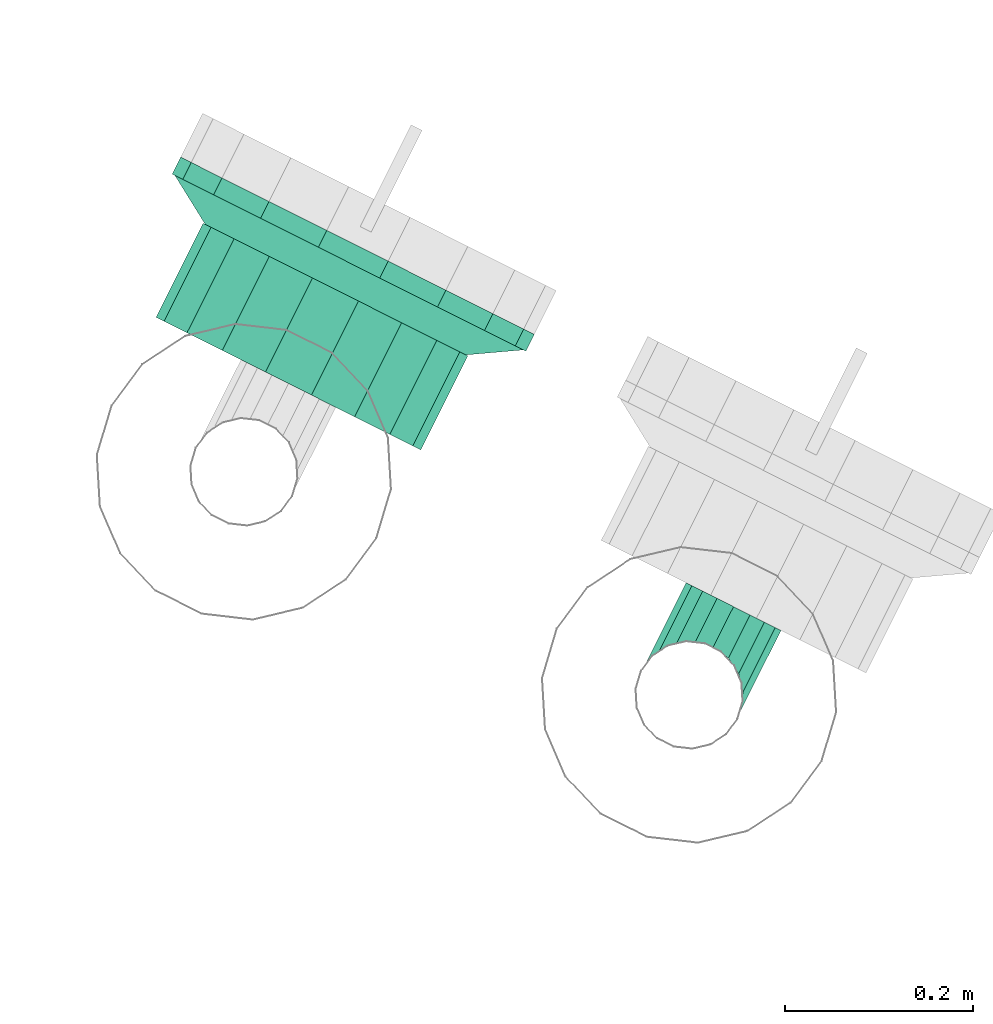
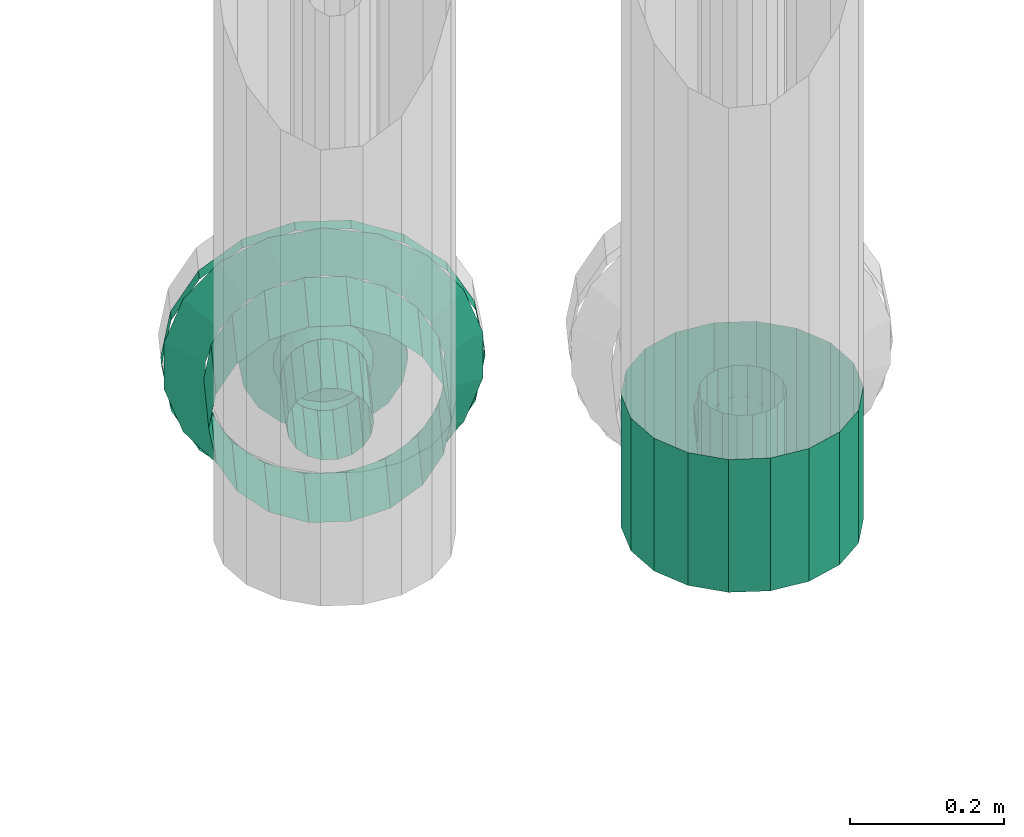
# One storey, part 39 of 206: 2 flow fittings, 1 flow segment.
"""IFC2X3 building model written with IfcOpenShell, lengths in metres."""

from ifc_helpers import new_model, si_unit, derived_unit, direction, frame, origin, place, context, subcontext, project, spatial, face_set, surface_model, source, transform, mapped, material, type_object, type_shapes, element, save


model = new_model("IFC2X3")

# Units and contexts
model_context = context("Model", 3, precision=5.2338327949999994e-05, world=origin(), true_north=direction((0.0, 1.0)))
body_context = subcontext(model_context, "Body", "Model", "MODEL_VIEW")
ifc_project = project(units=[si_unit("LENGTHUNIT", "METRE"), si_unit("AREAUNIT", "SQUARE_METRE"), si_unit("VOLUMEUNIT", "CUBIC_METRE"), si_unit("MASSUNIT", "GRAM", prefix="KILO"), si_unit("PLANEANGLEUNIT", "RADIAN"), derived_unit("THERMALTRANSMITTANCEUNIT", [(si_unit("MASSUNIT", "GRAM", prefix="KILO"), 1), (si_unit("THERMODYNAMICTEMPERATUREUNIT", "KELVIN"), -1), (si_unit("TIMEUNIT", "SECOND"), -3)])], contexts=[model_context])

# Site, building, storey
site_placement = place(None, frame((0.0, 0.0, 0.0), z_axis=(0.0, 0.0, 1.0), x_axis=(0.8939966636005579, -0.4480736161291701, 0.0)))
site = spatial("IfcSite", under=ifc_project, at=site_placement, Name="Default", CompositionType="ELEMENT")
building_placement = place(site_placement, origin())
building = spatial("IfcBuilding", under=site, at=building_placement, CompositionType="ELEMENT")
storey_placement = place(building_placement, origin())
storey = spatial("IfcBuildingStorey", under=building, at=storey_placement, Name="Erdgeschoss", CompositionType="ELEMENT", Elevation=0.0)

# Flow fitting
ifc_material_1 = material(Name="IfcSurfaceStyle #1741")
distribution_element_type_1 = type_object("IfcDistributionElementType", Name="Abzweigstück 327505:Abzweigstück 327505", material=ifc_material_1)
shared_shape_1 = source(origin(), body_context, "Body", "SurfaceModel", [
    surface_model("IfcFaceBasedSurfaceModel", [(25.567149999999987, 0.6122997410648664, 0.9494106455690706), (25.57059656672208, 0.592753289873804, 0.9494106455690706), (25.57059656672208, 0.592753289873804, 1.1594106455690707), (25.567149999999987, 0.6122997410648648, 1.1594106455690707), (25.580520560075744, 0.5755644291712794, 0.9494106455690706), (25.580520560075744, 0.5755644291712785, 1.1594106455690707), (25.595724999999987, 0.5628063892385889, 0.9494106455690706), (25.595724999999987, 0.5628063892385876, 1.1594106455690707), (25.61437600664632, 0.5560179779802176, 0.9494106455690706), (25.614376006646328, 0.5560179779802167, 1.1594106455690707), (25.634223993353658, 0.5560179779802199, 0.9494106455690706), (25.634223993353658, 0.5560179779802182, 1.1594106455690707), (25.652874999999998, 0.562806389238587, 0.9494106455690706), (25.65287499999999, 0.5628063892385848, 1.1594106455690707), (25.66807943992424, 0.5755644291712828, 0.9494106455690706), (25.668079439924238, 0.5755644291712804, 1.1594106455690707), (25.678003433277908, 0.5927532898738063, 0.9494106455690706), (25.678003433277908, 0.5927532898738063, 1.1594106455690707), (25.68144999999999, 0.612299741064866, 0.9494106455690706), (25.68144999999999, 0.6122997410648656, 1.1594106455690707), (25.678003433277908, 0.6318461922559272, 0.9494106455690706), (25.678003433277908, 0.631846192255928, 1.1594106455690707), (25.668079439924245, 0.6490350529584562, 0.9494106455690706), (25.668079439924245, 0.6490350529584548, 1.1594106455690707), (25.652874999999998, 0.6617930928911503, 0.9494106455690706), (25.65287499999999, 0.6617930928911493, 1.1594106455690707), (25.634223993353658, 0.6685815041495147, 0.9494106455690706), (25.63422399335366, 0.6685815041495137, 1.1594106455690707), (25.614376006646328, 0.6685815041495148, 0.9494106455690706), (25.61437600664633, 0.6685815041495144, 1.1594106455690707), (25.595724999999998, 0.6617930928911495, 0.9494106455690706), (25.595724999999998, 0.6617930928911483, 1.1594106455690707), (25.580520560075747, 0.6490350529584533, 0.9494106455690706), (25.580520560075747, 0.6490350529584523, 1.1594106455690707), (25.57059656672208, 0.6318461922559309, 0.9494106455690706), (25.57059656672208, 0.6318461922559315, 1.1594106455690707), (25.624299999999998, 0.6694497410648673, 1.1115606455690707), (25.643846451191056, 0.6660031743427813, 1.1081140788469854), (25.643846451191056, 0.717299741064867, 1.1081140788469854), (25.624299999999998, 0.7172997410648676, 1.1115606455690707), (25.66103531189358, 0.6560791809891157, 1.0981900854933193), (25.661035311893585, 0.7172997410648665, 1.098190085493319), (25.673793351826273, 0.6408747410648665, 1.0829856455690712), (25.673793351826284, 0.717299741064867, 1.0829856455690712), (25.68058176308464, 0.6222237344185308, 1.0643346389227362), (25.680581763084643, 0.7172997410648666, 1.064334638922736), (25.680581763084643, 0.6222237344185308, 1.0444866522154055), (25.680581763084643, 0.7172997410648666, 1.0444866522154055), (25.67379335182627, 0.6408747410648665, 1.0258356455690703), (25.673793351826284, 0.717299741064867, 1.0258356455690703), (25.66103531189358, 0.6560791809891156, 1.0106312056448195), (25.661035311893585, 0.7172997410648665, 1.0106312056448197), (25.643846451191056, 0.6660031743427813, 1.0007072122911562), (25.643846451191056, 0.717299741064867, 1.0007072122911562), (25.624299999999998, 0.6694497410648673, 0.9972606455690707), (25.624299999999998, 0.7172997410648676, 0.9972606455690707), (25.604753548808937, 0.6660031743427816, 1.0007072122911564), (25.60475354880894, 0.7172997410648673, 1.0007072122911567), (25.58756468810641, 0.6560791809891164, 1.010631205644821), (25.58756468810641, 0.7172997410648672, 1.010631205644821), (25.57480664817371, 0.6408747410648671, 1.025835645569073), (25.574806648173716, 0.7172997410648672, 1.025835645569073), (25.56801823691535, 0.6222237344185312, 1.0444866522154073), (25.568018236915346, 0.717299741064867, 1.0444866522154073), (25.568018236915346, 0.6222237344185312, 1.0643346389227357), (25.568018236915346, 0.717299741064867, 1.0643346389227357), (25.57480664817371, 0.6408747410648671, 1.0829856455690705), (25.574806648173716, 0.7172997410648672, 1.0829856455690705), (25.58756468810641, 0.6560791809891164, 1.0981900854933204), (25.58756468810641, 0.7172997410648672, 1.0981900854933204), (25.604753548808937, 0.6660031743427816, 1.1081140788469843), (25.60475354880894, 0.7172997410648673, 1.1081140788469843), (25.467149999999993, 0.6122997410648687, 0.9494106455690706), (25.476627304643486, 0.55855127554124, 0.9494106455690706), (25.476627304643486, 0.5585512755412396, 1.1594106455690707), (25.467149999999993, 0.6122997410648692, 1.1594106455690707), (25.503916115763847, 0.5112856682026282, 0.9494106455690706), (25.503916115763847, 0.5112856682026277, 1.1594106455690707), (25.545724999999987, 0.47620384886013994, 0.9494106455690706), (25.545724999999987, 0.4762038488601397, 1.1594106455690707), (25.59701118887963, 0.4575372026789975, 0.9494106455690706), (25.59701118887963, 0.45753720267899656, 1.1594106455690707), (25.651588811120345, 0.45753720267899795, 0.9494106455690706), (25.651588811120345, 0.4575372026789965, 1.1594106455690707), (25.702874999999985, 0.4762038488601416, 0.9494106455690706), (25.702874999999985, 0.4762038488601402, 1.1594106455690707), (25.74468388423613, 0.5112856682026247, 0.9494106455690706), (25.74468388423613, 0.5112856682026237, 1.1594106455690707), (25.771972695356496, 0.558551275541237, 0.9494106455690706), (25.771972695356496, 0.5585512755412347, 1.1594106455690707), (25.781449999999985, 0.6122997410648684, 0.9494106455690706), (25.781449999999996, 0.6122997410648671, 1.1594106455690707), (25.7719726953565, 0.6660482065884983, 0.9494106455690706), (25.771972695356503, 0.6660482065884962, 1.1594106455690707), (25.744683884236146, 0.71331381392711, 0.9494106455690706), (25.744683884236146, 0.7133138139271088, 1.1594106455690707), (25.702875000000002, 0.7483956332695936, 0.9494106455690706), (25.702875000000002, 0.7483956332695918, 1.1594106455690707), (25.651588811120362, 0.7670622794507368, 0.9494106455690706), (25.651588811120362, 0.7670622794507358, 1.1594106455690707), (25.597011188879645, 0.7670622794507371, 0.9494106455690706), (25.597011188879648, 0.7670622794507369, 1.1594106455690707), (25.545725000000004, 0.748395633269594, 0.9494106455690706), (25.545725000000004, 0.748395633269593, 1.1594106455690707), (25.50391611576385, 0.7133138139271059, 0.9494106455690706), (25.503916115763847, 0.7133138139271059, 1.1594106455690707), (25.47662730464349, 0.6660482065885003, 0.9494106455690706), (25.47662730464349, 0.6660482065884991, 1.1594106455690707)], [face_set([[[0, 1, 2, 3]], [[1, 4, 5, 2]], [[4, 6, 7, 5]], [[6, 8, 9, 7]], [[8, 10, 11, 9]], [[10, 12, 13, 11]], [[12, 14, 15, 13]], [[14, 16, 17, 15]], [[16, 18, 19, 17]], [[18, 20, 21, 19]], [[20, 22, 23, 21]], [[22, 24, 25, 23]], [[24, 26, 27, 25]], [[26, 28, 29, 27]], [[28, 30, 31, 29]], [[30, 32, 33, 31]], [[32, 34, 35, 33]], [[34, 0, 3, 35]], [[36, 37, 38, 39]], [[37, 40, 41, 38]], [[40, 42, 43, 41]], [[42, 44, 45, 43]], [[44, 46, 47, 45]], [[46, 48, 49, 47]], [[48, 50, 51, 49]], [[50, 52, 53, 51]], [[52, 54, 55, 53]], [[54, 56, 57, 55]], [[56, 58, 59, 57]], [[58, 60, 61, 59]], [[60, 62, 63, 61]], [[62, 64, 65, 63]], [[64, 66, 67, 65]], [[66, 68, 69, 67]], [[68, 70, 71, 69]], [[70, 36, 39, 71]], [[72, 73, 74, 75]], [[73, 76, 77, 74]], [[76, 78, 79, 77]], [[78, 80, 81, 79]], [[80, 82, 83, 81]], [[82, 84, 85, 83]], [[84, 86, 87, 85]], [[86, 88, 89, 87]], [[88, 90, 91, 89]], [[90, 92, 93, 91]], [[92, 94, 95, 93]], [[94, 96, 97, 95]], [[96, 98, 99, 97]], [[98, 100, 101, 99]], [[100, 102, 103, 101]], [[102, 104, 105, 103]], [[104, 106, 107, 105]], [[106, 72, 75, 107]]])]),
])
type_shapes(distribution_element_type_1, [shared_shape_1])
flow_fitting_1_placement = place(storey_placement, origin())
element("IfcFlowFitting", 1, at=flow_fitting_1_placement, inside=storey, type_object=distribution_element_type_1, material=ifc_material_1, Name="Abzweigstück", ObjectType="Abzweigstück", context=body_context, shape_type="MappedRepresentation", body=[
    mapped(shared_shape_1, transform((0.0, 0.0, 0.0), scale=1.0)),
])

# Flow segment
ifc_material_2 = material(Name="IfcSurfaceStyle #9317")
distribution_element_type_2 = type_object("IfcDistributionElementType", Name="Stahlrohr nach DIN 2448 351427:Stahlrohr nach DIN 2448 351427", material=ifc_material_2)
shared_shape_2 = source(origin(), body_context, "Body", "SurfaceModel", [
    surface_model("IfcFaceBasedSurfaceModel", [(25.038549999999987, 0.7172997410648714, 1.0544106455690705), (25.041996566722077, 0.7172997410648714, 1.0739570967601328), (25.041996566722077, 0.8288727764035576, 1.0739570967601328), (25.038549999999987, 0.8288727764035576, 1.0544106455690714), (25.051920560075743, 0.7172997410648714, 1.0911459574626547), (25.051920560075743, 0.8288727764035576, 1.0911459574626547), (25.067124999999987, 0.7172997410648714, 1.1039039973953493), (25.067124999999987, 0.8288727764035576, 1.1039039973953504), (25.08577600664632, 0.7172997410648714, 1.1106924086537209), (25.08577600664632, 0.8288727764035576, 1.1106924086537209), (25.105623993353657, 0.7172997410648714, 1.1106924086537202), (25.105623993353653, 0.8288727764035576, 1.1106924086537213), (25.12427499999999, 0.7172997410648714, 1.1039039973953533), (25.124274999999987, 0.8288727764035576, 1.1039039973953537), (25.139479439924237, 0.7172997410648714, 1.0911459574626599), (25.139479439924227, 0.8288727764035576, 1.0911459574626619), (25.149403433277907, 0.7172997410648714, 1.0739570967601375), (25.149403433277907, 0.8288727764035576, 1.0739570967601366), (25.152849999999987, 0.7172997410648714, 1.054410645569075), (25.152849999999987, 0.8288727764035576, 1.054410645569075), (25.1494034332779, 0.7172997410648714, 1.0348641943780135), (25.149403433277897, 0.8288727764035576, 1.0348641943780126), (25.139479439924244, 0.7172997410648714, 1.0176753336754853), (25.139479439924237, 0.8288727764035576, 1.0176753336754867), (25.12427499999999, 0.7172997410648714, 1.004917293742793), (25.124274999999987, 0.8288727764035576, 1.0049172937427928), (25.105623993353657, 0.7172997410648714, 0.9981288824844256), (25.105623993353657, 0.8288727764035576, 0.9981288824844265), (25.08577600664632, 0.7172997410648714, 0.9981288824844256), (25.085776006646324, 0.8288727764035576, 0.9981288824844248), (25.06712499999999, 0.7172997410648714, 1.004917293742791), (25.06712499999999, 0.8288727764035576, 1.004917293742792), (25.051920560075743, 0.7172997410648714, 1.0176753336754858), (25.051920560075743, 0.8288727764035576, 1.0176753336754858), (25.041996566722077, 0.7172997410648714, 1.0348641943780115), (25.041996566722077, 0.8288727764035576, 1.0348641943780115), (24.93854999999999, 0.7172997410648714, 1.054410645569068), (24.94802730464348, 0.7172997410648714, 1.1081591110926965), (24.94802730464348, 0.8288727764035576, 1.1081591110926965), (24.93854999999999, 0.8288727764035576, 1.054410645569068), (24.975316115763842, 0.7172997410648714, 1.1554247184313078), (24.97531611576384, 0.8288727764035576, 1.1554247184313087), (25.017124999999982, 0.7172997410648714, 1.190506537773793), (25.017124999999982, 0.8288727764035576, 1.190506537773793), (25.06841118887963, 0.7172997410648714, 1.20917318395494), (25.06841118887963, 0.8288727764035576, 1.20917318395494), (25.122988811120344, 0.7172997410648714, 1.2091731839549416), (25.122988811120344, 0.8288727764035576, 1.2091731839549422), (25.174274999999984, 0.7172997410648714, 1.1905065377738), (25.174274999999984, 0.8288727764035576, 1.1905065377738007), (25.21608388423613, 0.7172997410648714, 1.1554247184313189), (25.21608388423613, 0.8288727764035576, 1.1554247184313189), (25.243372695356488, 0.7172997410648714, 1.1081591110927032), (25.243372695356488, 0.8288727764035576, 1.1081591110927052), (25.25284999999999, 0.7172997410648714, 1.054410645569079), (25.25284999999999, 0.8288727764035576, 1.0544106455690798), (25.243372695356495, 0.7172997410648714, 1.0006621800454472), (25.243372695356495, 0.8288727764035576, 1.000662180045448), (25.216083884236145, 0.7172997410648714, 0.953396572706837), (25.216083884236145, 0.8288727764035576, 0.9533965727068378), (25.174274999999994, 0.7172997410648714, 0.9183147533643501), (25.174274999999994, 0.8288727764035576, 0.9183147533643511), (25.122988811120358, 0.7172997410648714, 0.8996481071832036), (25.12298881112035, 0.8288727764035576, 0.8996481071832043), (25.068411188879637, 0.7172997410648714, 0.8996481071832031), (25.068411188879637, 0.8288727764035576, 0.8996481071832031), (25.017124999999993, 0.7172997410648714, 0.9183147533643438), (25.017124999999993, 0.8288727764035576, 0.9183147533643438), (24.97531611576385, 0.7172997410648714, 0.9533965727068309), (24.975316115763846, 0.8288727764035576, 0.9533965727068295), (24.94802730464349, 0.7172997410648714, 1.0006621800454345), (24.94802730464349, 0.8288727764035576, 1.0006621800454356)], [face_set([[[0, 1, 2, 3]], [[1, 4, 5, 2]], [[4, 6, 7, 5]], [[6, 8, 9, 7]], [[8, 10, 11, 9]], [[10, 12, 13, 11]], [[12, 14, 15, 13]], [[14, 16, 17, 15]], [[16, 18, 19, 17]], [[18, 20, 21, 19]], [[20, 22, 23, 21]], [[22, 24, 25, 23]], [[24, 26, 27, 25]], [[26, 28, 29, 27]], [[28, 30, 31, 29]], [[30, 32, 33, 31]], [[32, 34, 35, 33]], [[34, 0, 3, 35]], [[36, 37, 38, 39]], [[37, 40, 41, 38]], [[40, 42, 43, 41]], [[42, 44, 45, 43]], [[44, 46, 47, 45]], [[46, 48, 49, 47]], [[48, 50, 51, 49]], [[50, 52, 53, 51]], [[52, 54, 55, 53]], [[54, 56, 57, 55]], [[56, 58, 59, 57]], [[58, 60, 61, 59]], [[60, 62, 63, 61]], [[62, 64, 65, 63]], [[64, 66, 67, 65]], [[66, 68, 69, 67]], [[68, 70, 71, 69]], [[70, 36, 39, 71]]])]),
])
type_shapes(distribution_element_type_2, [shared_shape_2])
flow_segment_placement = place(storey_placement, origin())
element("IfcFlowSegment", 2, at=flow_segment_placement, inside=storey, type_object=distribution_element_type_2, material=ifc_material_2, Name="Stahlrohr nach DIN 2448", ObjectType="Stahlrohr nach DIN 2448", context=body_context, shape_type="MappedRepresentation", body=[
    mapped(shared_shape_2, transform((0.0, 0.0, 0.0), scale=1.0)),
])

# Flow fitting
distribution_element_type_3 = type_object("IfcDistributionElementType", Name="Flansch 351708:Flansch 351708", material=ifc_material_2)
shared_shape_3 = source(origin(), body_context, "Body", "SurfaceModel", [
    surface_model("IfcFaceBasedSurfaceModel", [(25.095699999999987, 0.8288727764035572, 1.1115606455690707), (25.11524645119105, 0.8288727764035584, 1.108114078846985), (25.11810231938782, 0.8608727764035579, 1.1159605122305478), (25.095699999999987, 0.8608727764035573, 1.119910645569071), (25.13243531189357, 0.8288727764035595, 1.0981900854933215), (25.137802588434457, 0.8608727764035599, 1.1045865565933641), (25.14519335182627, 0.8288727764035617, 1.082985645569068), (25.15242466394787, 0.8608727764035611, 1.0871606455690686), (25.151981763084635, 0.8288727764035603, 1.0643346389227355), (25.160204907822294, 0.8608727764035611, 1.0657846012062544), (25.151981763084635, 0.8288727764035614, 1.044486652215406), (25.160204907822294, 0.8608727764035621, 1.0430366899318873), (25.14519335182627, 0.8288727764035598, 1.0258356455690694), (25.152424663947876, 0.8608727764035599, 1.02166064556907), (25.132435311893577, 0.8288727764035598, 1.0106312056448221), (25.13780258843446, 0.8608727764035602, 1.0042347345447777), (25.11524645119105, 0.8288727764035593, 1.0007072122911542), (25.11810231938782, 0.8608727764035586, 0.9928607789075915), (25.095699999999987, 0.8288727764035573, 0.997260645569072), (25.095699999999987, 0.8608727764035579, 0.9889106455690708), (25.076153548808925, 0.8288727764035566, 1.000707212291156), (25.07329768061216, 0.8608727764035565, 0.9928607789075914), (25.058964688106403, 0.8288727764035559, 1.010631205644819), (25.053597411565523, 0.8608727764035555, 1.0042347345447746), (25.04620664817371, 0.8288727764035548, 1.0258356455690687), (25.038975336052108, 0.8608727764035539, 1.0216606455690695), (25.039418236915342, 0.8288727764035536, 1.0444866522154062), (25.031195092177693, 0.8608727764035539, 1.043036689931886), (25.039418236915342, 0.828872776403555, 1.0643346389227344), (25.03119509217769, 0.8608727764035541, 1.065784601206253), (25.046206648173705, 0.8288727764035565, 1.082985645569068), (25.038975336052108, 0.8608727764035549, 1.0871606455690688), (25.058964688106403, 0.8288727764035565, 1.0981900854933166), (25.053597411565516, 0.8608727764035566, 1.1045865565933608), (25.076153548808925, 0.8288727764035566, 1.1081140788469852), (25.073297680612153, 0.8608727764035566, 1.1159605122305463), (24.98569999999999, 0.8608727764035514, 1.0544106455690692), (24.99233381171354, 0.8608727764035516, 1.0920328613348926), (24.99233381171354, 0.8808727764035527, 1.0920328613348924), (24.98569999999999, 0.8808727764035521, 1.0544106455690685), (25.011435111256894, 0.8608727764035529, 1.12511728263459), (25.011435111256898, 0.8808727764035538, 1.12511728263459), (25.04069999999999, 0.8608727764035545, 1.1496734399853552), (25.040699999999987, 0.8808727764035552, 1.1496734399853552), (25.076598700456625, 0.8608727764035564, 1.1627394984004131), (25.076598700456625, 0.8808727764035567, 1.162739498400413), (25.114801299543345, 0.8608727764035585, 1.162739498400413), (25.114801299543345, 0.8808727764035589, 1.162739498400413), (25.150699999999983, 0.8608727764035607, 1.1496734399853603), (25.150699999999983, 0.8808727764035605, 1.1496734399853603), (25.179964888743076, 0.8608727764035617, 1.1251172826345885), (25.179964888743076, 0.8808727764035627, 1.1251172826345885), (25.199066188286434, 0.8608727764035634, 1.0920328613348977), (25.199066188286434, 0.8808727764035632, 1.0920328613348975), (25.205699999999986, 0.8608727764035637, 1.0544106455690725), (25.205699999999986, 0.8808727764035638, 1.0544106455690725), (25.199066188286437, 0.8608727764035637, 1.016788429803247), (25.199066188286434, 0.8808727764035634, 1.0167884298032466), (25.179964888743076, 0.8608727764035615, 0.9837040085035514), (25.179964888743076, 0.8808727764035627, 0.9837040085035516), (25.150699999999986, 0.860872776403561, 0.9591478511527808), (25.150699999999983, 0.8808727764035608, 0.9591478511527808), (25.114801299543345, 0.8608727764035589, 0.9460817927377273), (25.11480129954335, 0.8808727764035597, 0.9460817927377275), (25.076598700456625, 0.8608727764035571, 0.946081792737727), (25.07659870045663, 0.880872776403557, 0.9460817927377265), (25.040699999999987, 0.8608727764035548, 0.9591478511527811), (25.04069999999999, 0.8808727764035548, 0.9591478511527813), (25.0114351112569, 0.8608727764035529, 0.9837040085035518), (25.0114351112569, 0.8808727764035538, 0.9837040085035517), (24.992333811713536, 0.8608727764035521, 1.0167884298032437), (24.992333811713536, 0.8808727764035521, 1.0167884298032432), (25.095699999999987, 0.8608727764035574, 1.0544106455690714), (25.095699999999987, 0.8288727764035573, 1.2115606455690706), (25.149448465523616, 0.8288727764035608, 1.2020833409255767), (25.167524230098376, 0.8608727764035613, 1.251746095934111), (25.095699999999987, 0.8608727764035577, 1.264410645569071), (25.196714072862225, 0.8288727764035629, 1.174794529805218), (25.23068539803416, 0.8608727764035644, 1.215279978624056), (25.231795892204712, 0.8288727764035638, 1.1329856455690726), (25.27756533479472, 0.8608727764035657, 1.1594106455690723), (25.250462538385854, 0.8288727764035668, 1.0816994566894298), (25.302509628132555, 0.8608727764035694, 1.0908767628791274), (25.250462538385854, 0.8288727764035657, 1.027121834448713), (25.302509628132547, 0.8608727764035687, 1.0179445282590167), (25.231795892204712, 0.8288727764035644, 0.9758356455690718), (25.27756533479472, 0.8608727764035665, 0.9494106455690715), (25.196714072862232, 0.8288727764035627, 0.9340267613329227), (25.23068539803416, 0.8608727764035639, 0.8935413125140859), (25.149448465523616, 0.8288727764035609, 0.9067379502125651), (25.16752423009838, 0.860872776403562, 0.8570751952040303), (25.095699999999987, 0.8288727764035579, 0.8972606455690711), (25.095699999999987, 0.8608727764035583, 0.8444106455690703), (25.041951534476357, 0.8288727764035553, 0.9067379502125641), (25.023875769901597, 0.8608727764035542, 0.8570751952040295), (24.994685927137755, 0.8288727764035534, 0.9340267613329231), (24.96071460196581, 0.8608727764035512, 0.893541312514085), (24.959604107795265, 0.8288727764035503, 0.9758356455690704), (24.913834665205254, 0.8608727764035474, 0.9494106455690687), (24.940937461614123, 0.8288727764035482, 1.0271218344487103), (24.888890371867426, 0.8608727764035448, 1.0179445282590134), (24.940937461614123, 0.828872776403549, 1.0816994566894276), (24.88889037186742, 0.8608727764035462, 1.090876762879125), (24.959604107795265, 0.82887277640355, 1.1329856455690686), (24.913834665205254, 0.8608727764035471, 1.159410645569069), (24.994685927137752, 0.8288727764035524, 1.1747945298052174), (24.96071460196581, 0.86087277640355, 1.2152799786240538), (25.041951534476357, 0.8288727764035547, 1.2020833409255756), (25.023875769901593, 0.8608727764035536, 1.2517460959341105), (24.885699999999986, 0.8608727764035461, 1.0544106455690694), (24.898364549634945, 0.8608727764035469, 1.1262348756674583), (24.898364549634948, 0.8808727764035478, 1.1262348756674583), (24.885699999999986, 0.8808727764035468, 1.0544106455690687), (24.934830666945, 0.8608727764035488, 1.18939604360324), (24.934830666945, 0.8808727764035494, 1.18939604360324), (24.990699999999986, 0.8608727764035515, 1.236275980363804), (24.99069999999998, 0.8808727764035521, 1.236275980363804), (25.059233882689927, 0.8608727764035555, 1.2612202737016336), (25.059233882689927, 0.8808727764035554, 1.2612202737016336), (25.13216611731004, 0.8608727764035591, 1.2612202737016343), (25.13216611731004, 0.8808727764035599, 1.2612202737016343), (25.20069999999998, 0.8608727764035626, 1.2362759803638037), (25.200699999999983, 0.8808727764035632, 1.2362759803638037), (25.256569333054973, 0.8608727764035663, 1.1893960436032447), (25.256569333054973, 0.8808727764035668, 1.1893960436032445), (25.293035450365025, 0.8608727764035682, 1.1262348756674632), (25.293035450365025, 0.8808727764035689, 1.1262348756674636), (25.30569999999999, 0.8608727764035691, 1.0544106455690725), (25.305699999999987, 0.8808727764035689, 1.0544106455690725), (25.293035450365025, 0.8608727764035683, 0.9825864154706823), (25.293035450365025, 0.8808727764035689, 0.9825864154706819), (25.256569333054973, 0.8608727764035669, 0.9194252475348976), (25.256569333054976, 0.8808727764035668, 0.9194252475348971), (25.200699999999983, 0.8608727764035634, 0.8725453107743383), (25.20069999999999, 0.8808727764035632, 0.8725453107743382), (25.132166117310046, 0.8608727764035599, 0.847601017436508), (25.132166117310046, 0.8808727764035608, 0.8476010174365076), (25.059233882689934, 0.8608727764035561, 0.8476010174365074), (25.059233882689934, 0.8808727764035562, 0.8476010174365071), (24.99069999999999, 0.8608727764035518, 0.8725453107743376), (24.990699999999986, 0.8808727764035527, 0.8725453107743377), (24.934830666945, 0.860872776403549, 0.9194252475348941), (24.934830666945, 0.8808727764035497, 0.9194252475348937), (24.898364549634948, 0.8608727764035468, 0.9825864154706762), (24.898364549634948, 0.8808727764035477, 0.9825864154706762)], [face_set([[[0, 1, 2, 3]], [[1, 4, 5, 2]], [[4, 6, 7, 5]], [[6, 8, 9, 7]], [[8, 10, 11, 9]], [[10, 12, 13, 11]], [[12, 14, 15, 13]], [[14, 16, 17, 15]], [[16, 18, 19, 17]], [[18, 20, 21, 19]], [[20, 22, 23, 21]], [[22, 24, 25, 23]], [[24, 26, 27, 25]], [[26, 28, 29, 27]], [[28, 30, 31, 29]], [[30, 32, 33, 31]], [[32, 34, 35, 33]], [[34, 0, 3, 35]], [[36, 37, 38, 39]], [[37, 40, 41, 38]], [[40, 42, 43, 41]], [[42, 44, 45, 43]], [[44, 46, 47, 45]], [[46, 48, 49, 47]], [[48, 50, 51, 49]], [[50, 52, 53, 51]], [[52, 54, 55, 53]], [[54, 56, 57, 55]], [[56, 58, 59, 57]], [[58, 60, 61, 59]], [[60, 62, 63, 61]], [[62, 64, 65, 63]], [[64, 66, 67, 65]], [[66, 68, 69, 67]], [[68, 70, 71, 69]], [[70, 36, 39, 71]], [[72, 37, 36]], [[72, 40, 37]], [[72, 42, 40]], [[72, 44, 42]], [[72, 46, 44]], [[72, 48, 46]], [[72, 50, 48]], [[72, 52, 50]], [[72, 54, 52]], [[72, 56, 54]], [[72, 58, 56]], [[72, 60, 58]], [[72, 62, 60]], [[72, 64, 62]], [[72, 66, 64]], [[72, 68, 66]], [[72, 70, 68]], [[72, 36, 70]], [[73, 74, 75, 76]], [[74, 77, 78, 75]], [[77, 79, 80, 78]], [[79, 81, 82, 80]], [[81, 83, 84, 82]], [[83, 85, 86, 84]], [[85, 87, 88, 86]], [[87, 89, 90, 88]], [[89, 91, 92, 90]], [[91, 93, 94, 92]], [[93, 95, 96, 94]], [[95, 97, 98, 96]], [[97, 99, 100, 98]], [[99, 101, 102, 100]], [[101, 103, 104, 102]], [[103, 105, 106, 104]], [[105, 107, 108, 106]], [[107, 73, 76, 108]], [[109, 110, 111, 112]], [[110, 113, 114, 111]], [[113, 115, 116, 114]], [[115, 117, 118, 116]], [[117, 119, 120, 118]], [[119, 121, 122, 120]], [[121, 123, 124, 122]], [[123, 125, 126, 124]], [[125, 127, 128, 126]], [[127, 129, 130, 128]], [[129, 131, 132, 130]], [[131, 133, 134, 132]], [[133, 135, 136, 134]], [[135, 137, 138, 136]], [[137, 139, 140, 138]], [[139, 141, 142, 140]], [[141, 143, 144, 142]], [[143, 109, 112, 144]]])]),
])
type_shapes(distribution_element_type_3, [shared_shape_3])
flow_fitting_2_placement = place(storey_placement, origin())
element("IfcFlowFitting", 3, at=flow_fitting_2_placement, inside=storey, type_object=distribution_element_type_3, material=ifc_material_2, Name="Flansch", ObjectType="Flansch", context=body_context, shape_type="MappedRepresentation", body=[
    mapped(shared_shape_3, transform((0.0, 0.0, 0.0), scale=1.0)),
])

save(model, "model.ifc")
